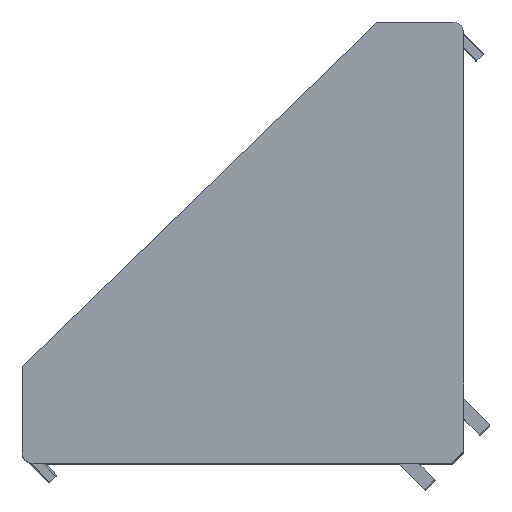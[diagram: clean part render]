
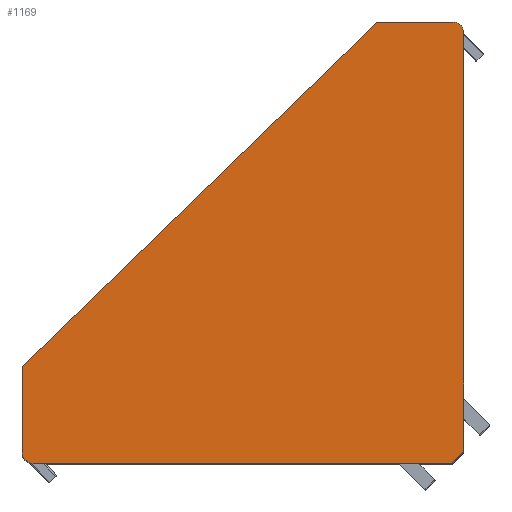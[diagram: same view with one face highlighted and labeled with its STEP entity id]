
A CAD part, top view. The second image highlights one B-rep face of the part: STEP entity #1169.
In plain terms, the highlighted planar face has unit normal (0, 0, 1).
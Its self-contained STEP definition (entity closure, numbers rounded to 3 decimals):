
#132 = FACE_OUTER_BOUND ( 'NONE', #7479, .T. ) ;
#561 = CIRCLE ( 'NONE', #3784, 1. ) ;
#617 = LINE ( 'NONE', #2994, #638 ) ;
#638 = VECTOR ( 'NONE', #2995, 1000. ) ;
#640 = CIRCLE ( 'NONE', #3739, 1. ) ;
#641 = LINE ( 'NONE', #3001, #642 ) ;
#642 = VECTOR ( 'NONE', #3002, 1000. ) ;
#645 = LINE ( 'NONE', #3005, #646 ) ;
#646 = VECTOR ( 'NONE', #3006, 1000. ) ;
#1169 = ADVANCED_FACE ( 'NONE', ( #132 ), #8507, .F. ) ;
#2856 = CARTESIAN_POINT ( 'NONE',  ( -10.434, -5.49, 35.3 ) ) ;
#2875 = DIRECTION ( 'NONE',  ( 0., 0., 1. ) ) ;
#2876 = DIRECTION ( 'NONE',  ( -1., 0., 0. ) ) ;
#2990 = CARTESIAN_POINT ( 'NONE',  ( 28.566, 33.51, 35.3 ) ) ;
#2994 = CARTESIAN_POINT ( 'NONE',  ( -11.434, 2.51, 35.3 ) ) ;
#2995 = DIRECTION ( 'NONE',  ( -0.718, -0.696, 0. ) ) ;
#2997 = DIRECTION ( 'NONE',  ( 0., 0., 1. ) ) ;
#2998 = DIRECTION ( 'NONE',  ( -1., 0., 0. ) ) ;
#3001 = CARTESIAN_POINT ( 'NONE',  ( 29.566, -6.49, 35.3 ) ) ;
#3002 = DIRECTION ( 'NONE',  ( 1., 0., 0. ) ) ;
#3005 = CARTESIAN_POINT ( 'NONE',  ( 29.495, -5.419, 35.3 ) ) ;
#3006 = DIRECTION ( 'NONE',  ( 0.707, 0.707, 0. ) ) ;
#3739 = AXIS2_PLACEMENT_3D ( 'NONE', #2990, #2997, #2998 ) ;
#3784 = AXIS2_PLACEMENT_3D ( 'NONE', #2856, #2875, #2876 ) ;
#4932 = DIRECTION ( 'NONE',  ( -1., 0., 0. ) ) ;
#5071 = CARTESIAN_POINT ( 'NONE',  ( 21.566, 34.51, 35.3 ) ) ;
#5280 = DIRECTION ( 'NONE',  ( 0., -1., 0. ) ) ;
#5464 = CARTESIAN_POINT ( 'NONE',  ( 29.566, 34.51, 35.3 ) ) ;
#5469 = CARTESIAN_POINT ( 'NONE',  ( -11.434, -6.49, 35.3 ) ) ;
#5538 = DIRECTION ( 'NONE',  ( 0., 1., 0. ) ) ;
#6473 = ORIENTED_EDGE ( 'NONE', *, *, #9345, .T. ) ;
#6509 = ORIENTED_EDGE ( 'NONE', *, *, #9520, .T. ) ;
#6511 = ORIENTED_EDGE ( 'NONE', *, *, #9339, .T. ) ;
#6512 = ORIENTED_EDGE ( 'NONE', *, *, #9519, .T. ) ;
#6516 = ORIENTED_EDGE ( 'NONE', *, *, #9470, .T. ) ;
#6520 = ORIENTED_EDGE ( 'NONE', *, *, #9257, .T. ) ;
#6522 = ORIENTED_EDGE ( 'NONE', *, *, #9524, .T. ) ;
#6767 = ORIENTED_EDGE ( 'NONE', *, *, #9522, .T. ) ;
#6787 = AXIS2_PLACEMENT_3D ( 'NONE', #8519, #8505, #8498 ) ;
#7479 = EDGE_LOOP ( 'NONE', ( #6767, #6522, #6511, #6509, #6520, #6512, #6473, #6516 ) ) ;
#8498 = DIRECTION ( 'NONE',  ( -1., 0., 0. ) ) ;
#8505 = DIRECTION ( 'NONE',  ( 0., 0., -1. ) ) ;
#8507 = PLANE ( 'NONE',  #6787 ) ;
#8519 = CARTESIAN_POINT ( 'NONE',  ( 29.566, -6.49, 35.3 ) ) ;
#8791 = CARTESIAN_POINT ( 'NONE',  ( 29.566, 33.51, 35.3 ) ) ;
#8813 = CARTESIAN_POINT ( 'NONE',  ( -11.434, 2.51, 35.3 ) ) ;
#8853 = CARTESIAN_POINT ( 'NONE',  ( -11.434, -5.49, 35.3 ) ) ;
#8899 = CARTESIAN_POINT ( 'NONE',  ( 28.425, -6.49, 35.3 ) ) ;
#8946 = CARTESIAN_POINT ( 'NONE',  ( 21.566, 34.51, 35.3 ) ) ;
#8954 = CARTESIAN_POINT ( 'NONE',  ( 29.566, -5.349, 35.3 ) ) ;
#8968 = CARTESIAN_POINT ( 'NONE',  ( -10.434, -6.49, 35.3 ) ) ;
#9002 = CARTESIAN_POINT ( 'NONE',  ( 28.566, 34.51, 35.3 ) ) ;
#9257 = EDGE_CURVE ( 'NONE', #11476, #11420, #9870, .T. ) ;
#9339 = EDGE_CURVE ( 'NONE', #11428, #11261, #9990, .T. ) ;
#9345 = EDGE_CURVE ( 'NONE', #11283, #11322, #9995, .T. ) ;
#9470 = EDGE_CURVE ( 'NONE', #11322, #11442, #561, .T. ) ;
#9519 = EDGE_CURVE ( 'NONE', #11420, #11283, #617, .T. ) ;
#9520 = EDGE_CURVE ( 'NONE', #11261, #11476, #640, .T. ) ;
#9522 = EDGE_CURVE ( 'NONE', #11442, #11370, #641, .T. ) ;
#9524 = EDGE_CURVE ( 'NONE', #11370, #11428, #645, .T. ) ;
#9870 = LINE ( 'NONE', #5071, #9873 ) ;
#9873 = VECTOR ( 'NONE', #4932, 1000. ) ;
#9990 = LINE ( 'NONE', #5464, #9996 ) ;
#9995 = LINE ( 'NONE', #5469, #10001 ) ;
#9996 = VECTOR ( 'NONE', #5538, 1000. ) ;
#10001 = VECTOR ( 'NONE', #5280, 1000. ) ;
#11261 = VERTEX_POINT ( 'NONE', #8791 ) ;
#11283 = VERTEX_POINT ( 'NONE', #8813 ) ;
#11322 = VERTEX_POINT ( 'NONE', #8853 ) ;
#11370 = VERTEX_POINT ( 'NONE', #8899 ) ;
#11420 = VERTEX_POINT ( 'NONE', #8946 ) ;
#11428 = VERTEX_POINT ( 'NONE', #8954 ) ;
#11442 = VERTEX_POINT ( 'NONE', #8968 ) ;
#11476 = VERTEX_POINT ( 'NONE', #9002 ) ;
